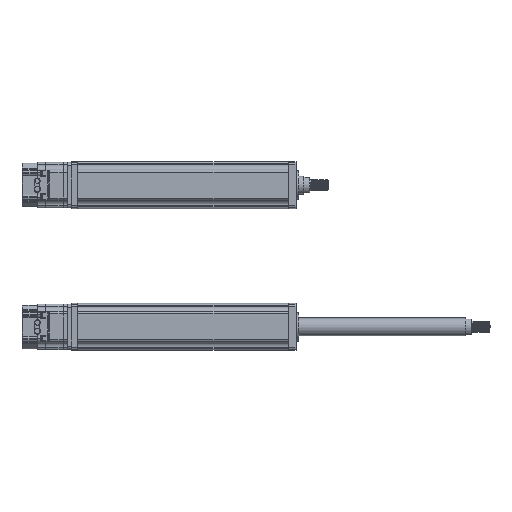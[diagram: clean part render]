
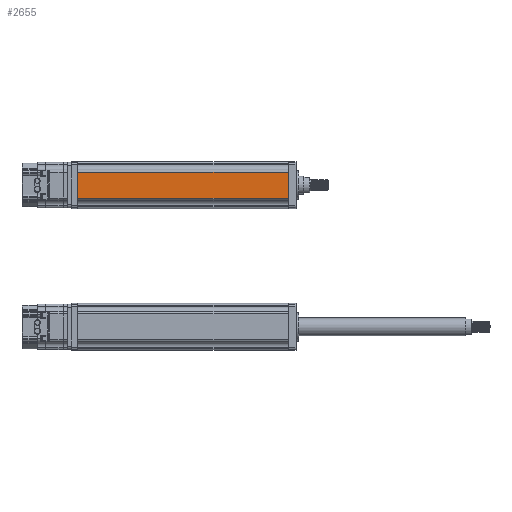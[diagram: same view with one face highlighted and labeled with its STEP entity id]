
A CAD part, top view. The second image highlights one B-rep face of the part: STEP entity #2655.
In plain terms, the highlighted planar face has unit normal (0, 0, 1).
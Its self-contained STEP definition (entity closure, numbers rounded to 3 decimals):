
#2655=ADVANCED_FACE('',(#6732),#6733,.F.);
#6732=FACE_OUTER_BOUND('',#12788,.T.);
#6733=PLANE('',#12789);
#12788=EDGE_LOOP('',(#29153,#29154,#29155,#29156));
#12789=AXIS2_PLACEMENT_3D('',#29157,#29158,#29159);
#29153=ORIENTED_EDGE('',*,*,#45833,.F.);
#29154=ORIENTED_EDGE('',*,*,#45834,.F.);
#29155=ORIENTED_EDGE('',*,*,#45835,.F.);
#29156=ORIENTED_EDGE('',*,*,#45836,.F.);
#29157=CARTESIAN_POINT('',(604.0,182.885,13.684));
#29158=DIRECTION('',(0.,0.,-1.0));
#29159=DIRECTION('',(1.0,0.,0.));
#45833=EDGE_CURVE('',#53432,#53433,#53434,.T.);
#45834=EDGE_CURVE('',#53435,#53432,#53436,.T.);
#45835=EDGE_CURVE('',#53437,#53435,#53438,.T.);
#45836=EDGE_CURVE('',#53433,#53437,#53439,.T.);
#53432=VERTEX_POINT('',#67480);
#53433=VERTEX_POINT('',#67481);
#53434=LINE('',#67482,#67483);
#53435=VERTEX_POINT('',#67484);
#53436=LINE('',#67485,#67486);
#53437=VERTEX_POINT('',#67487);
#53438=LINE('',#67488,#67489);
#53439=LINE('',#67490,#67491);
#67480=CARTESIAN_POINT('',(864.0,150.885,13.684));
#67481=CARTESIAN_POINT('',(604.0,150.885,13.684));
#67482=CARTESIAN_POINT('',(734.0,150.885,13.684));
#67483=VECTOR('',#106595,1.625);
#67484=CARTESIAN_POINT('',(864.0,182.885,13.684));
#67485=CARTESIAN_POINT('',(864.0,166.885,13.684));
#67486=VECTOR('',#106596,1.0);
#67487=CARTESIAN_POINT('',(604.0,182.885,13.684));
#67488=CARTESIAN_POINT('',(734.0,182.885,13.684));
#67489=VECTOR('',#106597,1.625);
#67490=CARTESIAN_POINT('',(604.0,166.885,13.684));
#67491=VECTOR('',#106598,1.0);
#106595=DIRECTION('',(-1.0,0.,0.));
#106596=DIRECTION('',(0.,-1.0,0.0));
#106597=DIRECTION('',(1.0,0.,0.));
#106598=DIRECTION('',(0.,1.0,0.0));
